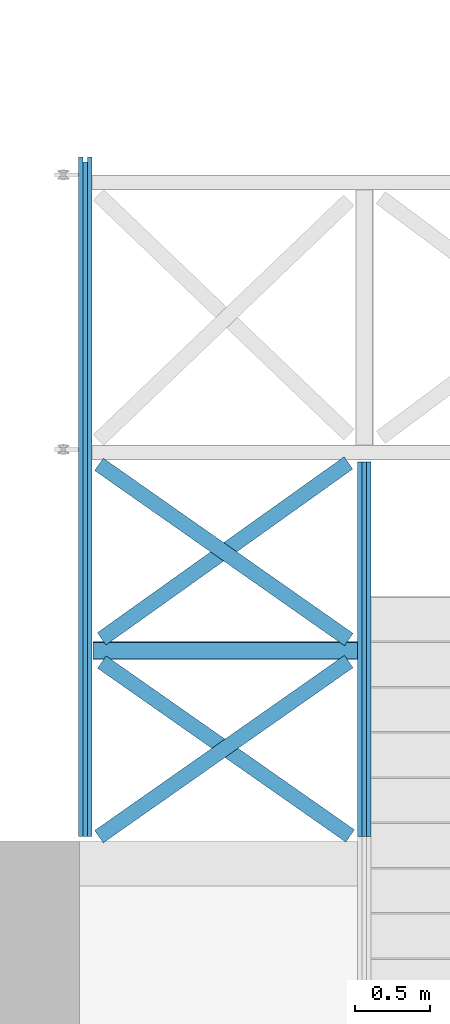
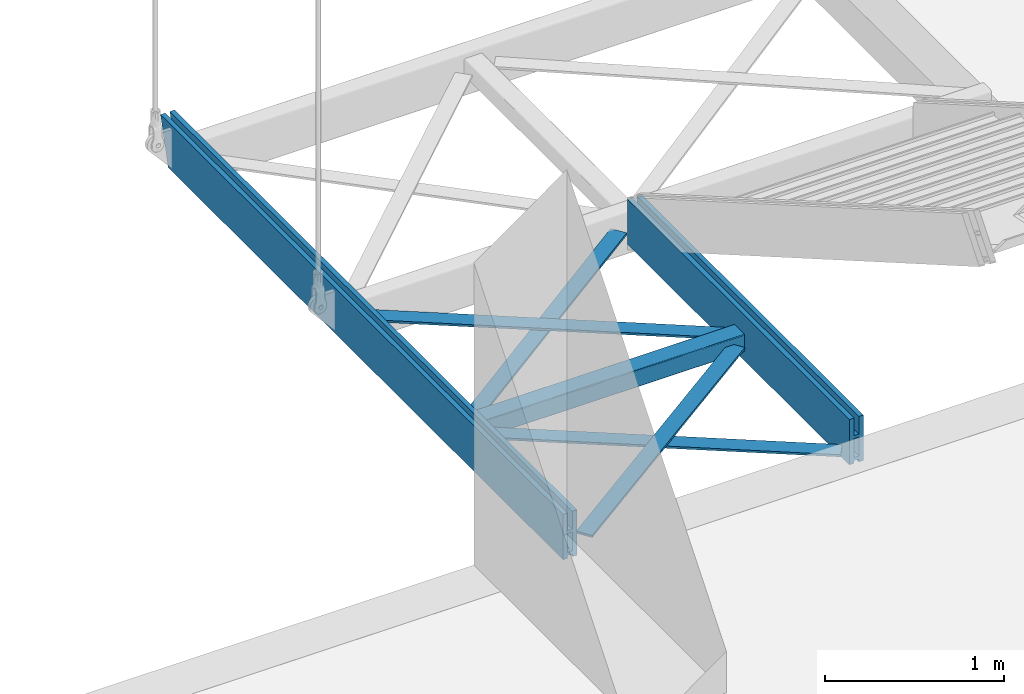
# One storey, part 15 of 34: 7 beams.
"""IFC2X3 building model written with IfcOpenShell, lengths in millimetres."""

import ifcopenshell
import ifcopenshell.guid

model = None  # the IFC model being written
_history = None  # IfcOwnerHistory: only IFC2X3 demands one
_inside = {}  # id of a spatial element -> (the spatial element, [elements in it])
_under = {}  # id of a project, library or spatial element -> (it, [spatial elements below it])
_declared = {}  # id of a project -> (the project, [libraries it declares])
_typed = {}  # id of a type object -> (the type object, [elements of that type])
_made_of = {}  # id of a material, layer set ... -> (it, [elements and type objects made of it])


def new_model(schema):
    """Start an empty IFC model of exactly this schema.

    Asked for "IFC4X3", IfcOpenShell would pick the latest addendum, in which some entities
    have other attributes; the version numbers below select the first issue.
    IFC2X3 requires an IfcOwnerHistory on every rooted entity: one is made here for all.
    """
    global model, _history
    if schema == "IFC4X3":
        model = ifcopenshell.file(schema_version=(4, 3, 0, 0))
    else:
        model = ifcopenshell.file(schema=schema)
    _inside.clear()
    _under.clear()
    _declared.clear()
    _typed.clear()
    _made_of.clear()
    _history = None
    if model.schema == "IFC2X3":
        org = make("IfcOrganization", Name="unknown")
        user = make(
            "IfcPersonAndOrganization",
            ThePerson=make("IfcPerson", FamilyName="unknown"),
            TheOrganization=org,
        )
        app = make(
            "IfcApplication",
            ApplicationDeveloper=org,
            Version="unknown",
            ApplicationFullName="unknown",
            ApplicationIdentifier="unknown",
        )
        _history = make(
            "IfcOwnerHistory",
            OwningUser=user,
            OwningApplication=app,
            ChangeAction="ADDED",
            CreationDate=0,
        )
    return model


def make(cls, **values):
    """One entity of the class cls with the attributes given. An attribute that is None is left unset."""
    return model.create_entity(
        cls, **{name: value for name, value in values.items() if value is not None}
    )


def entity(cls, *values):
    """Any entity or typed value of the class cls, its attributes in the order of the schema. None: left unset."""
    e = model.create_entity(cls)
    for i, value in enumerate(values):
        if value is not None:
            e[i] = value
    return e


def rooted(cls, **values):
    """An entity with a GlobalId (a new one), such as an element, a storey or a relation."""
    return make(cls, GlobalId=ifcopenshell.guid.new(), OwnerHistory=_history, **values)


def si_unit(unit_type, name, prefix=None):
    """IfcSIUnit, for example si_unit("LENGTHUNIT", "METRE", prefix="MILLI")."""
    return make("IfcSIUnit", UnitType=unit_type, Prefix=prefix, Name=name)


def converted_unit(unit_type, name, factor, base, dimensions=None, offset=None):
    """IfcConversionBasedUnit, such as the inch: factor (a typed value) times the base unit."""
    return make(
        "IfcConversionBasedUnit"
        if offset is None
        else "IfcConversionBasedUnitWithOffset",
        ConversionOffset=offset,
        Dimensions=None
        if dimensions is None
        else entity("IfcDimensionalExponents", *dimensions),
        UnitType=unit_type,
        Name=name,
        ConversionFactor=make(
            "IfcMeasureWithUnit", ValueComponent=factor, UnitComponent=base
        ),
    )


def derived_unit(unit_type, elements):
    """IfcDerivedUnit: a product of units, each with its exponent."""
    return make(
        "IfcDerivedUnit",
        Elements=[
            make("IfcDerivedUnitElement", Unit=unit, Exponent=power)
            for unit, power in elements
        ],
        UnitType=unit_type,
    )


def assignment(units):
    """IfcUnitAssignment: the units of a project."""
    return None if units is None else make("IfcUnitAssignment", Units=units)


def point(xyz):
    """IfcCartesianPoint."""
    return None if xyz is None else make("IfcCartesianPoint", Coordinates=xyz)


def direction(xyz):
    """IfcDirection."""
    return None if xyz is None else make("IfcDirection", DirectionRatios=xyz)


def frame(location, z_axis=None, x_axis=None):
    """IfcAxis2Placement3D, a coordinate frame: its origin and axes. An axis left out is left unset."""
    return make(
        "IfcAxis2Placement3D",
        Location=point(location),
        Axis=direction(z_axis),
        RefDirection=direction(x_axis),
    )


def frame_2d(location, x_axis=None):
    """IfcAxis2Placement2D, a coordinate frame in the plane: its origin and x axis."""
    return make(
        "IfcAxis2Placement2D", Location=point(location), RefDirection=direction(x_axis)
    )


def origin():
    """The frame at (0, 0, 0) with its axes left unset."""
    return frame((0.0, 0.0, 0.0))


def place(relative_to, where):
    """IfcLocalPlacement: puts the frame where relative to a parent placement (None: the world)."""
    return make(
        "IfcLocalPlacement", PlacementRelTo=relative_to, RelativePlacement=where
    )


def context(
    kind, dimensions, precision=None, world=None, true_north=None, identifier=None
):
    """IfcGeometricRepresentationContext, for example the 3D "Model" context."""
    return make(
        "IfcGeometricRepresentationContext",
        ContextIdentifier=identifier,
        ContextType=kind,
        CoordinateSpaceDimension=dimensions,
        Precision=precision,
        WorldCoordinateSystem=world,
        TrueNorth=true_north,
    )


def subcontext(parent, identifier, kind, view, scale=None):
    """IfcGeometricRepresentationSubContext, for example "Body" below "Model"."""
    return make(
        "IfcGeometricRepresentationSubContext",
        ContextIdentifier=identifier,
        ContextType=kind,
        ParentContext=parent,
        TargetScale=scale,
        TargetView=view,
    )


def project(units=None, contexts=None):
    """IfcProject with its units and contexts."""
    return rooted(
        "IfcProject",
        Name="project",
        RepresentationContexts=contexts,
        UnitsInContext=assignment(units),
    )


def spatial(cls, under=None, at=None, **own):
    """A site, building, storey or space (cls), placed at a placement, below another one or the project."""
    s = rooted(cls, ObjectPlacement=at, **own)
    if under is not None:
        _under.setdefault(under.id(), (under, []))[1].append(s)
    return s


def polyline(points):
    """IfcPolyline through the points."""
    return make("IfcPolyline", Points=[point(p) for p in points])


def circle_curve(where, radius):
    """IfcCircle in the frame where."""
    return make("IfcCircle", Position=where, Radius=radius)


def parameter(value):
    """IfcParameterValue: where a trimmed curve begins or ends, as a parameter of its basis curve."""
    return model.create_entity("IfcParameterValue", value)


def trimmed(basis, trim1, trim2, sense, master):
    """IfcTrimmedCurve: the piece of a basis curve between two trims."""
    return make(
        "IfcTrimmedCurve",
        BasisCurve=basis,
        Trim1=trim1,
        Trim2=trim2,
        SenseAgreement=sense,
        MasterRepresentation=master,
    )


def segment(curve, same_sense, transition):
    """IfcCompositeCurveSegment."""
    return make(
        "IfcCompositeCurveSegment",
        Transition=transition,
        SameSense=same_sense,
        ParentCurve=curve,
    )


def composite_curve(segments, self_intersect=None):
    """IfcCompositeCurve: segments joined end to end."""
    return make("IfcCompositeCurve", Segments=segments, SelfIntersect=self_intersect)


def profile(cls, at=None, kind="AREA", **sizes):
    """A parametric profile (cls). Its sizes go by their IFC names, for example OverallWidth=200.0."""
    return make(cls, ProfileType=kind, Position=at, **sizes)


def rectangle(**sizes):
    """IfcRectangleProfileDef."""
    return profile("IfcRectangleProfileDef", **sizes)


def outline(outer, holes=None, kind="AREA"):
    """IfcArbitraryClosedProfileDef: a profile drawn as a closed curve; with holes, ...WithVoids."""
    if holes is None:
        return make("IfcArbitraryClosedProfileDef", ProfileType=kind, OuterCurve=outer)
    return make(
        "IfcArbitraryProfileDefWithVoids",
        ProfileType=kind,
        OuterCurve=outer,
        InnerCurves=holes,
    )


def extrude(swept, where, along, depth):
    """IfcExtrudedAreaSolid: the profile swept, set in the frame where, extruded along a direction by depth."""
    return make(
        "IfcExtrudedAreaSolid",
        SweptArea=swept,
        Position=where,
        ExtrudedDirection=direction(along),
        Depth=depth,
    )


def clip(a, b, op="DIFFERENCE"):
    """IfcBooleanClippingResult: the solid a cut by the half space b."""
    return make(
        "IfcBooleanClippingResult", Operator=op, FirstOperand=a, SecondOperand=b
    )


def halfspace(plane, agree):
    """IfcHalfSpaceSolid: all space on one side of the plane z = 0 of the frame plane."""
    return make(
        "IfcHalfSpaceSolid",
        BaseSurface=make("IfcPlane", Position=plane),
        AgreementFlag=agree,
    )


def shape(context_of_items, identifier, shape_type, items):
    """IfcShapeRepresentation: the items that make up one representation, for example the "Body"."""
    return make(
        "IfcShapeRepresentation",
        ContextOfItems=context_of_items,
        RepresentationIdentifier=identifier,
        RepresentationType=shape_type,
        Items=items,
    )


def source(mapping_origin, context_of_items, identifier, shape_type, items):
    """IfcRepresentationMap: a shape defined once, which mapped items show again and again."""
    return make(
        "IfcRepresentationMap",
        MappingOrigin=mapping_origin,
        MappedRepresentation=shape(context_of_items, identifier, shape_type, items),
    )


def transform(
    local_origin,
    x_axis=None,
    y_axis=None,
    z_axis=None,
    scale=None,
    scale2=None,
    scale3=None,
    uniform=True,
):
    """IfcCartesianTransformationOperator3D, or its non-uniform kind. x_axis, y_axis, z_axis: its Axis1, 2, 3."""
    if uniform:
        return make(
            "IfcCartesianTransformationOperator3D",
            Axis1=direction(x_axis),
            Axis2=direction(y_axis),
            LocalOrigin=point(local_origin),
            Scale=scale,
            Axis3=direction(z_axis),
        )
    return make(
        "IfcCartesianTransformationOperator3DnonUniform",
        Axis1=direction(x_axis),
        Axis2=direction(y_axis),
        LocalOrigin=point(local_origin),
        Scale=scale,
        Axis3=direction(z_axis),
        Scale2=scale2,
        Scale3=scale3,
    )


def mapped(mapping_source, mapping_target):
    """IfcMappedItem: shows the shape of a source again, moved by a transform."""
    return make(
        "IfcMappedItem", MappingSource=mapping_source, MappingTarget=mapping_target
    )


def material(Name=None, Category=None):
    """IfcMaterial."""
    return make("IfcMaterial", Name=Name, Category=Category)


def made_of(thing, what):
    """Note that an element or type object is made of a material, layer set ...; save() writes the relation."""
    if what is not None:
        _made_of.setdefault(what.id(), (what, []))[1].append(thing)
    return thing


def type_object(cls, material=None, **own):
    """A type object (cls), such as IfcWallType, which elements share."""
    return made_of(rooted(cls, **own), material)


def type_shapes(of_type, sources):
    """Give a type object the sources (RepresentationMaps) that its elements show as mapped items."""
    of_type.RepresentationMaps = sources


def element(
    cls,
    number,
    at=None,
    inside=None,
    cuts=None,
    type_object=None,
    material=None,
    context=None,
    identifier="Body",
    shape_type=None,
    held_by="IfcProductDefinitionShape",
    body=None,
    shapes=None,
    **own,
):
    """One element of the class cls, such as IfcWall. Its Tag is "e" and its number.

    at: its placement. inside: the storey or other place that contains it. cuts: it is an
    opening in that element (IfcRelVoidsElement). A single representation is given by context,
    identifier, shape_type and body (its items); several are given by shapes. held_by: the class
    of the entity that holds the representations. save() writes the other relations.
    """
    e = rooted(cls, Tag="e%d" % number, ObjectPlacement=at, **own)
    if body is not None:
        shapes = [shape(context, identifier, shape_type, body)]
    if shapes is not None:
        e.Representation = make(held_by, Representations=shapes)
    if inside is not None:
        _inside.setdefault(inside.id(), (inside, []))[1].append(e)
    if cuts is not None:
        rooted(
            "IfcRelVoidsElement", RelatingBuildingElement=cuts, RelatedOpeningElement=e
        )
    if type_object is not None:
        _typed.setdefault(type_object.id(), (type_object, []))[1].append(e)
    return made_of(e, material)


def aggregate(whole, parts):
    """IfcRelAggregates: a whole, such as a stair, and the parts it consists of."""
    return rooted("IfcRelAggregates", RelatingObject=whole, RelatedObjects=parts)


def save(model, path):
    """Write the relations noted so far, then the file.

    IfcRelAggregates (storeys below a building ...), IfcRelContainedInSpatialStructure (elements
    in a storey), IfcRelDefinesByType, IfcRelAssociatesMaterial and IfcRelDeclares: one each for
    every whole, place, type object, material and project.
    """
    for whole, parts in _under.values():
        aggregate(whole, parts)
    for where, things in _inside.values():
        rooted(
            "IfcRelContainedInSpatialStructure",
            RelatedElements=things,
            RelatingStructure=where,
        )
    for kind, things in _typed.values():
        rooted("IfcRelDefinesByType", RelatedObjects=things, RelatingType=kind)
    for what, things in _made_of.values():
        rooted("IfcRelAssociatesMaterial", RelatedObjects=things, RelatingMaterial=what)
    for by, libraries in _declared.values():
        rooted("IfcRelDeclares", RelatingContext=by, RelatedDefinitions=libraries)
    model.write(path)


model = new_model("IFC2X3")

# Units and contexts
model_context = context("Model", 3, precision=0.01, world=origin(), true_north=direction((6.12303176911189e-17, 1.0)))
body_context = subcontext(model_context, "Body", "Model", "MODEL_VIEW")
ifc_project = project(units=[si_unit("LENGTHUNIT", "METRE", prefix="MILLI"), si_unit("AREAUNIT", "SQUARE_METRE", prefix="MILLI"), si_unit("VOLUMEUNIT", "CUBIC_METRE"), converted_unit("PLANEANGLEUNIT", "DEGREE", entity("IfcRatioMeasure", 0.0174532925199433), si_unit("PLANEANGLEUNIT", "RADIAN"), dimensions=[0, 0, 0, 0, 0, 0, 0]), si_unit("MASSUNIT", "GRAM", prefix="KILO"), derived_unit("MASSDENSITYUNIT", [(si_unit("MASSUNIT", "GRAM", prefix="KILO"), 1), (si_unit("LENGTHUNIT", "METRE"), -3)]), derived_unit("MOMENTOFINERTIAUNIT", [(si_unit("LENGTHUNIT", "METRE"), 4)]), si_unit("TIMEUNIT", "SECOND"), si_unit("FREQUENCYUNIT", "HERTZ"), si_unit("THERMODYNAMICTEMPERATUREUNIT", "DEGREE_CELSIUS"), derived_unit("THERMALTRANSMITTANCEUNIT", [(si_unit("MASSUNIT", "GRAM", prefix="KILO"), 1), (si_unit("THERMODYNAMICTEMPERATUREUNIT", "KELVIN"), -1), (si_unit("TIMEUNIT", "SECOND"), -3)]), derived_unit("VOLUMETRICFLOWRATEUNIT", [(si_unit("LENGTHUNIT", "METRE"), 3), (si_unit("TIMEUNIT", "SECOND"), -1)]), si_unit("ELECTRICCURRENTUNIT", "AMPERE"), si_unit("ELECTRICVOLTAGEUNIT", "VOLT"), si_unit("POWERUNIT", "WATT"), si_unit("FORCEUNIT", "NEWTON", prefix="KILO"), si_unit("ILLUMINANCEUNIT", "LUX"), si_unit("LUMINOUSFLUXUNIT", "LUMEN"), si_unit("LUMINOUSINTENSITYUNIT", "CANDELA"), derived_unit("USERDEFINED", [(si_unit("MASSUNIT", "GRAM", prefix="KILO"), -1), (si_unit("LENGTHUNIT", "METRE"), -2), (si_unit("TIMEUNIT", "SECOND"), 3), (si_unit("LUMINOUSFLUXUNIT", "LUMEN"), 1)]), derived_unit("LINEARVELOCITYUNIT", [(si_unit("LENGTHUNIT", "METRE"), 1), (si_unit("TIMEUNIT", "SECOND"), -1)]), si_unit("PRESSUREUNIT", "PASCAL"), derived_unit("USERDEFINED", [(si_unit("LENGTHUNIT", "METRE"), -2), (si_unit("MASSUNIT", "GRAM", prefix="KILO"), 1), (si_unit("TIMEUNIT", "SECOND"), -2)]), derived_unit("LINEARFORCEUNIT", [(si_unit("MASSUNIT", "GRAM", prefix="KILO"), 1), (si_unit("LENGTHUNIT", "METRE"), 1), (si_unit("TIMEUNIT", "SECOND"), -2), (si_unit("LENGTHUNIT", "METRE"), -1)]), derived_unit("PLANARFORCEUNIT", [(si_unit("MASSUNIT", "GRAM", prefix="KILO"), 1), (si_unit("LENGTHUNIT", "METRE"), 1), (si_unit("TIMEUNIT", "SECOND"), -2), (si_unit("LENGTHUNIT", "METRE"), -2)])], contexts=[model_context])

# Site, building, storey
site_placement = place(None, origin())
site = spatial("IfcSite", under=ifc_project, at=site_placement, Name="Theater aan de Parade", CompositionType="ELEMENT")
building_placement = place(site_placement, origin())
building = spatial("IfcBuilding", under=site, at=building_placement, Name="Theater aan de Parade", CompositionType="ELEMENT")
storey_placement = place(building_placement, frame((0.0, 0.0, 3.49116848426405e-09)))
storey = spatial("IfcBuildingStorey", under=building, at=storey_placement, Name="00 begane grond", CompositionType="ELEMENT", Elevation=3.49116848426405e-09)

# Beams
ifc_material_1 = material(Name="00_PBT_MAT_staal_S355")
beam_type_1 = type_object("IfcBeamType", Name="28_PBT_SF_staal_trapboom_glas:trapboom", PredefinedType="BEAM", material=ifc_material_1)
shared_shape_1 = source(origin(), body_context, "Body", "Clipping", [
    clip(extrude(rectangle(XDim=20.0000000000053, YDim=30.0000000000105, at=frame_2d((8.66329230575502e-12, -7.114309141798e-13), x_axis=(0.0, 1.0))), frame((37491.8281932, 30313.9629063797, -250.0), z_axis=(0.0, -1.0, 0.0), x_axis=(-1.0, 0.0, 0.0)), (0.0, 0.0, 1.0), 4429.37254078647), halfspace(frame((39781.7063235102, 32154.8185242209, 6549.86557927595), z_axis=(0.0, 0.965156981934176, -0.261671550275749), x_axis=(0.0, 0.261671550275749, 0.965156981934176)), False)),
    clip(extrude(rectangle(XDim=310.000000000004, YDim=29.9999999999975, at=frame_2d((2.16626716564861e-12, -1.02318153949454e-12), x_axis=(0.0, 1.0))), frame((37461.8281932, 30387.1647998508, -125.0), z_axis=(0.0, -1.0, 0.0), x_axis=(-1.0, 0.0, 0.0)), (0.0, 0.0, 1.0), 4502.57443425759), halfspace(frame((39781.7063235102, 32154.8185242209, 6549.86557927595), z_axis=(0.0, 0.965156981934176, -0.261671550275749), x_axis=(0.0, 0.261671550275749, 0.965156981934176)), False)),
    clip(extrude(rectangle(XDim=20.0000000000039, YDim=30.0000000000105, at=frame_2d((8.66329230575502e-12, -7.105427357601e-13), x_axis=(0.0, 1.0))), frame((37491.8281932, 30354.6306249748, -100.0), z_axis=(0.0, -1.0, 0.0), x_axis=(-1.0, 0.0, 0.0)), (0.0, 0.0, 1.0), 4470.04025938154), halfspace(frame((39781.7063235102, 32154.8185242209, 6549.86557927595), z_axis=(0.0, 0.965156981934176, -0.261671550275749), x_axis=(0.0, 0.261671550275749, 0.965156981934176)), False)),
    clip(extrude(rectangle(XDim=310.000000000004, YDim=29.9999999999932, at=frame_2d((8.66240412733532e-12, -1.02318153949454e-12), x_axis=(0.0, 1.0))), frame((37521.8281932, 30387.1647998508, -125.0), z_axis=(0.0, -1.0, 0.0), x_axis=(-1.0, 0.0, 0.0)), (0.0, 0.0, 1.0), 4502.57443425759), halfspace(frame((39781.7063235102, 32154.8185242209, 6549.86557927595), z_axis=(0.0, 0.965156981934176, -0.261671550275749), x_axis=(0.0, 0.261671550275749, 0.965156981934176)), False)),
])
type_shapes(beam_type_1, [shared_shape_1])
beam_1_placement = place(storey_placement, frame((0.0, 0.0, -3.49116848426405e-09)))
element("IfcBeam", 1, at=beam_1_placement, inside=storey, type_object=beam_type_1, material=ifc_material_1, Name="28_PBT_SF_staal_trapboom_glas:trapboom", ObjectType="28_PBT_SF_staal_trapboom_glas:trapboom", context=body_context, shape_type="MappedRepresentation", body=[
    mapped(shared_shape_1, transform((0.0, 0.0, 0.0), scale=1.0)),
])
ifc_material_2 = material(Name="00_PBT_MAT_staal_S235")
beam_type_2 = type_object("IfcBeamType", Name="28_PBT_SF_staal_koker:S235_K120x120x6.3", PredefinedType="NOTDEFINED")
beam_2_placement = place(storey_placement, frame((37541.8281932, 27116.9165413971, 0.0)))
element("IfcBeam", 2, at=beam_2_placement, inside=storey, type_object=beam_type_2, material=ifc_material_2, Name="28_PBT_SF_staal_koker:S235_K120x120x6.3", ObjectType="28_PBT_SF_staal_koker:S235_K120x120x6.3", context=body_context, shape_type="SweptSolid", body=[
    extrude(outline(composite_curve([segment(polyline([(-50.55, -60.0), (50.55, -60.0)]), True, "CONTINUOUS"), segment(trimmed(circle_curve(frame_2d((50.55, -50.5500000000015), x_axis=(0.0, 1.0)), 9.45), [parameter(180.0)], [parameter(270.0)], True, "PARAMETER"), True, "CONTINUOUS"), segment(polyline([(60.0, -50.5500000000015), (60.0, 50.5500000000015)]), True, "CONTINUOUS"), segment(trimmed(circle_curve(frame_2d((50.55, 50.5499999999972), x_axis=(0.0, 1.0)), 9.45), [parameter(270.0)], [parameter(360.0)], True, "PARAMETER"), True, "CONTINUOUS"), segment(polyline([(50.55, 60.0), (-50.55, 60.0)]), True, "CONTINUOUS"), segment(trimmed(circle_curve(frame_2d((-50.55, 50.5499999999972), x_axis=(0.0, 1.0)), 9.45), [parameter(0.0)], [parameter(90.0000000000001)], True, "PARAMETER"), True, "CONTINUOUS"), segment(polyline([(-60.0, 50.5500000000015), (-60.0, -50.5500000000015)]), True, "CONTINUOUS"), segment(trimmed(circle_curve(frame_2d((-50.55, -50.5500000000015), x_axis=(0.0, 1.0)), 9.45), [parameter(90.0)], [parameter(180.0)], True, "PARAMETER"), True, "CONTINUOUS")], self_intersect=False), holes=[composite_curve([segment(polyline([(53.7, 47.3999999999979), (53.7, -47.3999999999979)]), True, "CONTINUOUS"), segment(trimmed(circle_curve(frame_2d((47.4, -47.4000000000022), x_axis=(0.0, 1.0)), 6.3), [parameter(180.0)], [parameter(270.0)], True, "PARAMETER"), False, "CONTINUOUS"), segment(polyline([(47.4, -53.7000000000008), (-47.4, -53.7000000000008)]), True, "CONTINUOUS"), segment(trimmed(circle_curve(frame_2d((-47.3999999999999, -47.4000000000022), x_axis=(0.0, 1.0)), 6.3), [parameter(90.0)], [parameter(180.0)], True, "PARAMETER"), False, "CONTINUOUS"), segment(polyline([(-53.7, -47.3999999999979), (-53.7, 47.3999999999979)]), True, "CONTINUOUS"), segment(trimmed(circle_curve(frame_2d((-47.3999999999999, 47.3999999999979), x_axis=(0.0, 1.0)), 6.3), [parameter(4.07110999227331e-13)], [parameter(90.0000000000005)], True, "PARAMETER"), False, "CONTINUOUS"), segment(polyline([(-47.3999999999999, 53.7000000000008), (47.4, 53.7000000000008)]), True, "CONTINUOUS"), segment(trimmed(circle_curve(frame_2d((47.4, 47.3999999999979), x_axis=(0.0, 1.0)), 6.3), [parameter(270.0)], [parameter(360.0)], True, "PARAMETER"), False, "CONTINUOUS")], self_intersect=False)]), frame((0.0, 0.0, -160.0), z_axis=(1.0, 0.0, 0.0), x_axis=(0.0, 0.0, 1.0)), (0.0, 0.0, 1.0), 1754.99999999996),
])
ifc_material_3 = material(Name="00_PBT_MAT_staal")
beam_type_3 = type_object("IfcBeamType", Name="28_PBT_SF_staal_strip:strip 100x15", PredefinedType="NOTDEFINED")
beam_3_placement = place(storey_placement, frame((37491.8281932, 27116.9165413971, 0.0), z_axis=(0.0, 0.0, 1.0), x_axis=(0.81915204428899, -0.573576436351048, 0.0)))
element("IfcBeam", 3, at=beam_3_placement, inside=storey, type_object=beam_type_3, material=ifc_material_3, Name="28_PBT_SF_staal_strip:strip 100x15", ObjectType="28_PBT_SF_staal_strip:strip 100x15", context=body_context, shape_type="SweptSolid", body=[
    extrude(rectangle(XDim=15.0, YDim=99.9999999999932, at=frame_2d((-1.68753899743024e-14, 1.77280412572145e-12), x_axis=(1.0, 0.0))), frame((133.5202012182, 0.0, -167.500000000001), z_axis=(1.0, 0.0, 0.0), x_axis=(0.0, 0.0, -1.0)), (0.0, 0.0, 1.0), 2009.00357677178),
])
beam_4_placement = place(storey_placement, frame((39341.8281932, 27116.9165413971, 0.0), z_axis=(0.0, 0.0, 1.0), x_axis=(-0.818766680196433, -0.57412640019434, 0.0)))
element("IfcBeam", 4, at=beam_4_placement, inside=storey, type_object=beam_type_3, material=ifc_material_3, Name="28_PBT_SF_staal_strip:strip 100x15", ObjectType="28_PBT_SF_staal_strip:strip 100x15", context=body_context, shape_type="SweptSolid", body=[
    extrude(rectangle(XDim=15.0, YDim=100.000000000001, at=frame_2d((1.68753899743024e-14, 2.48689957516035e-12), x_axis=(1.0, 0.0))), frame((126.918222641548, 0.0, -152.500000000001), z_axis=(1.0, 0.0, 0.0), x_axis=(0.0, 0.0, -1.0)), (0.0, 0.0, 1.0), 2022.20796991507),
])
beam_5_placement = place(storey_placement, frame((37491.8281932, 27116.9165413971, 0.0), z_axis=(0.0, 0.0, 1.0), x_axis=(0.814201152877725, 0.580582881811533, 0.0)))
element("IfcBeam", 5, at=beam_5_placement, inside=storey, type_object=beam_type_3, material=ifc_material_3, Name="28_PBT_SF_staal_strip:strip 100x15", ObjectType="28_PBT_SF_staal_strip:strip 100x15", context=body_context, shape_type="SweptSolid", body=[
    extrude(rectangle(XDim=15.0, YDim=100.000000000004, at=frame_2d((-1.68753899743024e-14, 3.01980662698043e-12), x_axis=(1.0, 0.0))), frame((133.520201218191, 0.0, -167.500000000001), z_axis=(1.0, 0.0, 0.0), x_axis=(0.0, 0.0, -1.0)), (0.0, 0.0, 1.0), 2008.40745548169),
])
beam_6_placement = place(storey_placement, frame((39341.8281932, 27116.9165413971, 0.0), z_axis=(0.0, 0.0, 1.0), x_axis=(-0.81876668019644, 0.574126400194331, 0.0)))
element("IfcBeam", 6, at=beam_6_placement, inside=storey, type_object=beam_type_3, material=ifc_material_3, Name="28_PBT_SF_staal_strip:strip 100x15", ObjectType="28_PBT_SF_staal_strip:strip 100x15", context=body_context, shape_type="SweptSolid", body=[
    extrude(rectangle(XDim=15.0, YDim=100.000000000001, at=frame_2d((1.68753899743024e-14, -7.8053119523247e-12), x_axis=(1.0, 0.0))), frame((126.918222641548, 0.0, -152.500000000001), z_axis=(1.0, 0.0, 0.0), x_axis=(0.0, 0.0, -1.0)), (0.0, 0.0, 1.0), 2022.20796991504),
])
beam_type_4 = type_object("IfcBeamType", Name="28_PBT_SF_staal_trapboom_glas:trapboom", PredefinedType="BEAM", material=ifc_material_1)
shared_shape_2 = source(origin(), body_context, "Body", "SweptSolid", [
    extrude(rectangle(XDim=20.0000000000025, YDim=30.0000000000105, at=frame_2d((0.0, 0.0), x_axis=(0.0, 1.0))), frame((39341.8281932, 28366.2663938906, -250.0), z_axis=(0.0, -1.0, 0.0), x_axis=(-1.0, 0.0, 0.0)), (0.0, 0.0, 1.0), 2481.67602829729),
    extrude(rectangle(XDim=310.0, YDim=30.0000000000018, at=frame_2d((4.33164615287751e-12, 0.0), x_axis=(0.0, 1.0))), frame((39371.8281932, 28366.2663938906, -125.0), z_axis=(0.0, -1.0, 0.0), x_axis=(-1.0, 0.0, 0.0)), (0.0, 0.0, 1.0), 2481.67602829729),
    extrude(rectangle(XDim=20.0, YDim=30.0000000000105, at=frame_2d((0.0, 0.0), x_axis=(0.0, 1.0))), frame((39341.8281932, 28366.2663938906, -100.0), z_axis=(0.0, -1.0, 0.0), x_axis=(-1.0, 0.0, 0.0)), (0.0, 0.0, 1.0), 2481.67602829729),
    extrude(rectangle(XDim=310.0, YDim=29.9999999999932, at=frame_2d((0.0, 0.0), x_axis=(0.0, 1.0))), frame((39311.8281932, 28366.2663938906, -125.0), z_axis=(0.0, -1.0, 0.0), x_axis=(-1.0, 0.0, 0.0)), (0.0, 0.0, 1.0), 2481.67602829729),
])
type_shapes(beam_type_4, [shared_shape_2])
beam_7_placement = place(storey_placement, frame((0.0, 0.0, -3.49116848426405e-09)))
element("IfcBeam", 7, at=beam_7_placement, inside=storey, type_object=beam_type_4, material=ifc_material_1, Name="28_PBT_SF_staal_trapboom_glas:trapboom", ObjectType="28_PBT_SF_staal_trapboom_glas:trapboom", context=body_context, shape_type="MappedRepresentation", body=[
    mapped(shared_shape_2, transform((0.0, 0.0, 0.0), scale=1.0)),
])

save(model, "model.ifc")
